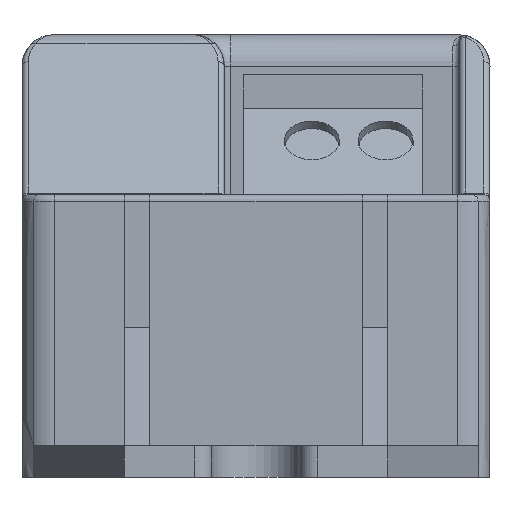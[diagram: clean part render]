
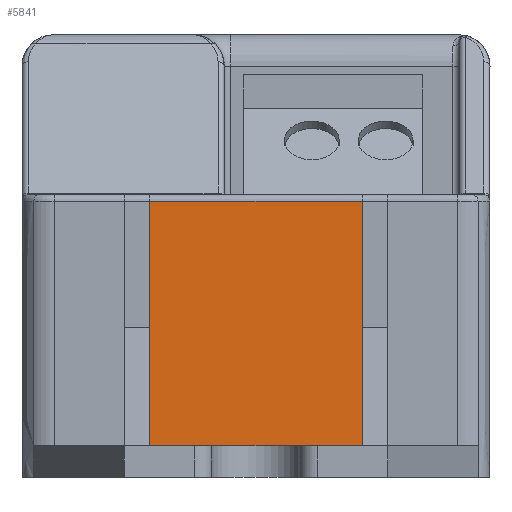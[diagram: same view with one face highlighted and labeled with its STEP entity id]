
A CAD part, front view. The second image highlights one B-rep face of the part: STEP entity #5841.
In plain terms, the highlighted planar face has unit normal (0, -1, 0).
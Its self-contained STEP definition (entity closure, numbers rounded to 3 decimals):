
#335=DIRECTION('',(1.,0.,0.));
#336=VECTOR('',#335,10.1);
#337=CARTESIAN_POINT('',(-5.05,3.926,1.5));
#338=LINE('',#337,#336);
#1582=DIRECTION('',(0.,0.,1.));
#1583=VECTOR('',#1582,11.6);
#1584=CARTESIAN_POINT('',(5.05,3.926,1.5));
#1585=LINE('',#1584,#1583);
#1600=DIRECTION('',(1.,0.,0.));
#1601=VECTOR('',#1600,10.1);
#1602=CARTESIAN_POINT('',(-5.05,3.926,13.1));
#1603=LINE('',#1602,#1601);
#1607=DIRECTION('',(0.,0.,1.));
#1608=VECTOR('',#1607,11.6);
#1609=CARTESIAN_POINT('',(-5.05,3.926,1.5));
#1610=LINE('',#1609,#1608);
#4337=CARTESIAN_POINT('',(-5.05,3.926,1.5));
#4338=VERTEX_POINT('',#4337);
#4339=CARTESIAN_POINT('',(5.05,3.926,1.5));
#4340=VERTEX_POINT('',#4339);
#4623=CARTESIAN_POINT('',(-5.05,3.926,13.1));
#4624=CARTESIAN_POINT('',(5.05,3.926,13.1));
#4625=VERTEX_POINT('',#4623);
#4626=VERTEX_POINT('',#4624);
#5830=CARTESIAN_POINT('',(-5.05,3.926,1.5));
#5831=DIRECTION('',(0.,-1.,0.));
#5832=DIRECTION('',(1.,0.,0.));
#5833=AXIS2_PLACEMENT_3D('',#5830,#5831,#5832);
#5834=PLANE('',#5833);
#5835=ORIENTED_EDGE('',*,*,#5808,.T.);
#5836=ORIENTED_EDGE('',*,*,#5818,.F.);
#5837=ORIENTED_EDGE('',*,*,#4827,.F.);
#5838=ORIENTED_EDGE('',*,*,#5787,.T.);
#5839=EDGE_LOOP('',(#5835,#5836,#5837,#5838));
#5840=FACE_OUTER_BOUND('',#5839,.F.);
#4827=EDGE_CURVE('',#4338,#4340,#338,.T.);
#5787=EDGE_CURVE('',#4338,#4625,#1610,.T.);
#5808=EDGE_CURVE('',#4625,#4626,#1603,.T.);
#5818=EDGE_CURVE('',#4340,#4626,#1585,.T.);
#5841=ADVANCED_FACE('',(#5840),#5834,.T.);
